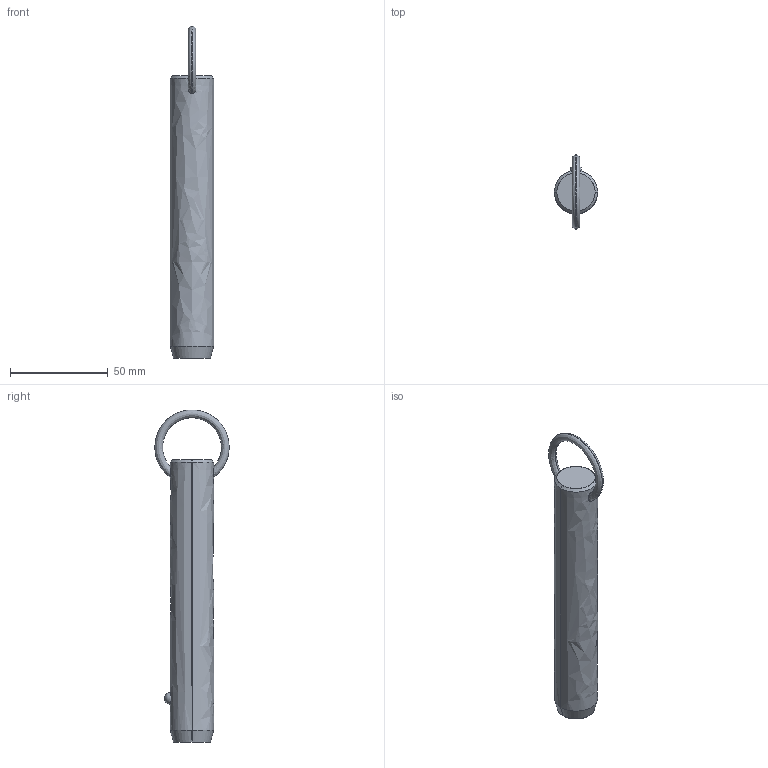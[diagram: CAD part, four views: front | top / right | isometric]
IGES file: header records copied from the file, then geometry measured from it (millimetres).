
Start section: SolidWorks IGES file using analytic representation for surfaces
Global section: file name: C:\Users\liam_\OneDrive\Documents\WORK\Work for WixRoyd\Job Files\J-00019 - Matt Davis CAD Checking\04. CAD Drawings\automotion20190605\P1250.2_v2\P1250.2_v2_20190729_IGES\P1250.087-420.igs; native system: SolidWorks 2017; preprocessor: SolidWorks 2017; author: liam_; date: 190730.001141; units: millimetre
Bounding box: 22.2 x 38.07 x 170.2 mm (x, y, z)
Surface area: 11742.6 mm2 (no closed solid volume)
Topology: 0 solids, 0 shells, 12 faces, 302 edges, 300 vertices
Faces by surface type: revolution 8, bspline 4
